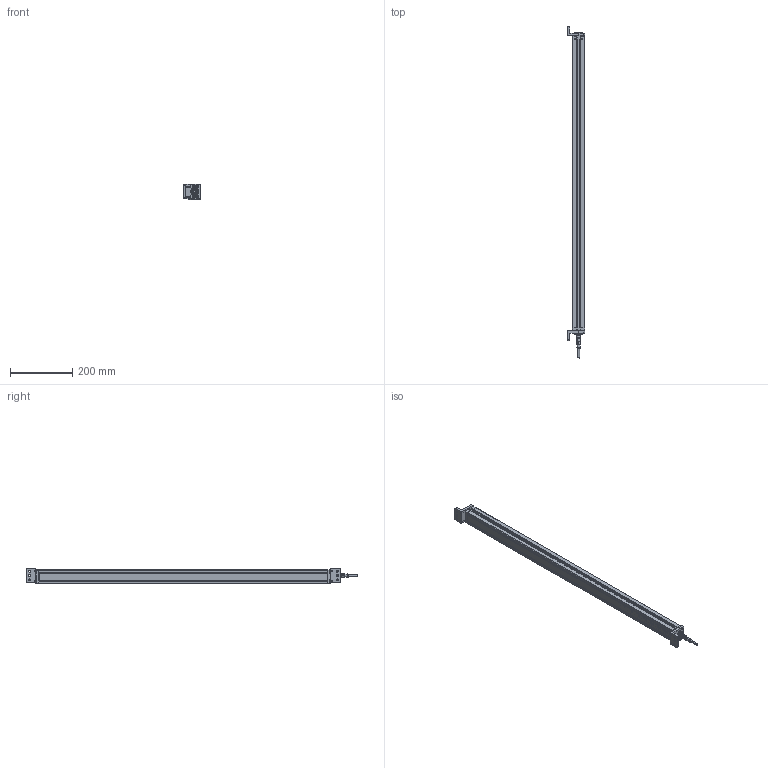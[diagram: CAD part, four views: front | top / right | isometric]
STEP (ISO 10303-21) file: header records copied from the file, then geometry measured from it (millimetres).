
FILE_DESCRIPTION (( 'STEP AP214' ), '1' );
FILE_NAME ('SH10 35.4in with Brackets Step.STEP', '2026-09-02T19:28:27', ( '' ), ( '' ), 'SwSTEP 2.0', 'SolidWorks 2025', '' );
FILE_SCHEMA (( 'AUTOMOTIVE_DESIGN' ));
Length unit declared in the file: millimetre
Products named in the file (4): 02-4017-00_V241.stp; 900 Solidworks; Cable Female End; SH10 35.4in with Brackets Step
Assembly tree (4 placements, depth 2):
  SH10 35.4in with Brackets Step
    900 Solidworks
    02-4017-00_V241.stp  x2
    Cable Female End
Bounding box: 56.2 x 1068.64 x 48.75 mm (x, y, z)
Volume: 574135.2 mm3; surface area: 429595.6 mm2
Topology: 12 solids, 12 shells, 1215 faces, 3151 edges, 1991 vertices
Faces by surface type: cylinder 563, plane 411, bspline 143, torus 52, cone 46
Entity records: 51115 total; most frequent: CARTESIAN_POINT 12992, ORIENTED_EDGE 5752, DIRECTION 5678, EDGE_CURVE 2876, AXIS2_PLACEMENT_3D 2114, VERTEX_POINT 1843, LINE 1450, VECTOR 1450
